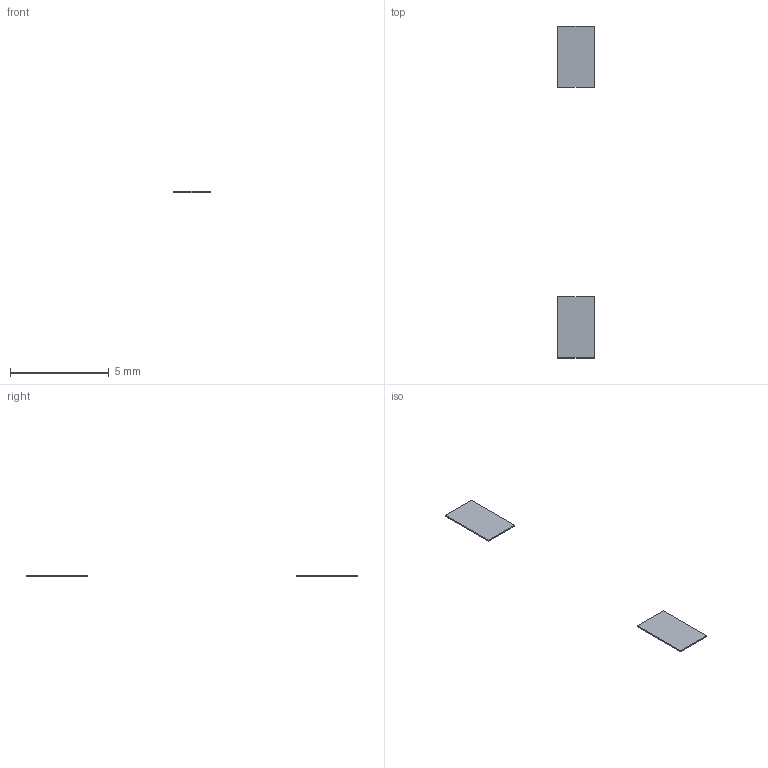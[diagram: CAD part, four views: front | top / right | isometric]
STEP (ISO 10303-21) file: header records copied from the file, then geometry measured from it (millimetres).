
FILE_DESCRIPTION(('Open CASCADE Model'),'2;1');
FILE_NAME('USB_liner_floor_sides','2026-09-21T22:33:44',('Author'),( 'Open CASCADE'),'Open CASCADE STEP processor 7.9','build123d', 'Unknown');
FILE_SCHEMA(('AUTOMOTIVE_DESIGN { 1 0 10303 214 1 1 1 1 }'));
Length unit declared in the file: millimetre
Products named in the file (2): USB_liner_floor_sides
Assembly tree (1 placements, depth 2):
  USB_liner_floor_sides
    USB_liner_floor_sides
Bounding box: 1.86 x 16.8 x 0.06 mm (x, y, z)
Volume: 0.7 mm3; surface area: 24.4 mm2
Topology: 2 solids, 2 shells, 12 faces, 24 edges, 16 vertices
Faces by surface type: plane 12
Entity records: 376 total; most frequent: CARTESIAN_POINT 54, DIRECTION 52, ORIENTED_EDGE 48, EDGE_CURVE 24, LINE 24, VECTOR 24, VERTEX_POINT 16, AXIS2_PLACEMENT_3D 14
